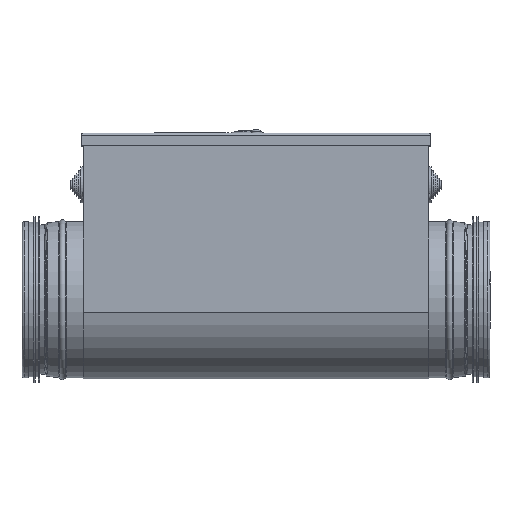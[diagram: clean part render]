
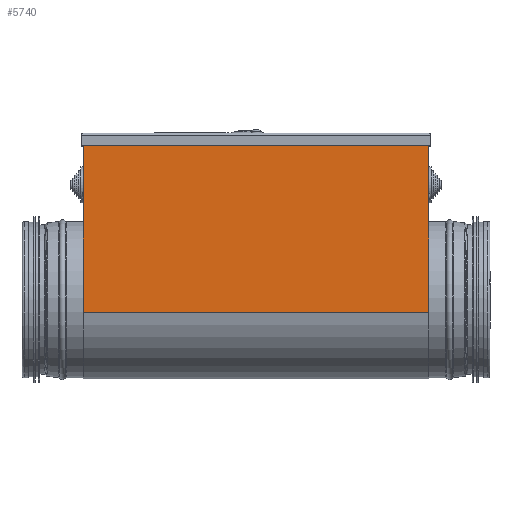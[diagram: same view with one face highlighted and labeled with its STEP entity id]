
A CAD part, top view. The second image highlights one B-rep face of the part: STEP entity #5740.
In plain terms, the highlighted planar face has unit normal (0, 0, 1).
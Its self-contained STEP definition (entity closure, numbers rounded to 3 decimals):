
#310=LINE('',#8311,#636);
#317=LINE('',#8357,#643);
#322=LINE('',#8389,#648);
#323=LINE('',#8390,#649);
#636=VECTOR('',#6743,1000.);
#643=VECTOR('',#6788,1000.);
#648=VECTOR('',#6819,10.);
#649=VECTOR('',#6820,1000.);
#968=PLANE('',#6144);
#1273=FACE_OUTER_BOUND('',#1638,.T.);
#1638=EDGE_LOOP('',(#3811,#3812,#3813,#3814));
#2407=VERTEX_POINT('',#8309);
#2408=VERTEX_POINT('',#8310);
#2427=VERTEX_POINT('',#8355);
#2428=VERTEX_POINT('',#8356);
#2974=EDGE_CURVE('',#2407,#2408,#310,.T.);
#2996=EDGE_CURVE('',#2427,#2428,#317,.T.);
#3012=EDGE_CURVE('',#2427,#2408,#322,.T.);
#3013=EDGE_CURVE('',#2428,#2407,#323,.T.);
#3811=ORIENTED_EDGE('',*,*,#2974,.T.);
#3812=ORIENTED_EDGE('',*,*,#3012,.F.);
#3813=ORIENTED_EDGE('',*,*,#2996,.T.);
#3814=ORIENTED_EDGE('',*,*,#3013,.T.);
#5740=ADVANCED_FACE('',(#1273),#968,.F.);
#6144=AXIS2_PLACEMENT_3D('',#8388,#6817,#6818);
#6743=DIRECTION('',(0.,1.,0.));
#6788=DIRECTION('',(0.,-1.,0.));
#6817=DIRECTION('center_axis',(0.,0.,-1.));
#6818=DIRECTION('ref_axis',(-1.,0.,0.));
#6819=DIRECTION('',(1.,0.,0.));
#6820=DIRECTION('',(1.,0.,0.));
#8309=CARTESIAN_POINT('',(136.5,-10.,62.9));
#8310=CARTESIAN_POINT('',(136.5,121.5,62.9));
#8311=CARTESIAN_POINT('',(136.5,-10.,62.9));
#8355=CARTESIAN_POINT('',(-136.5,121.5,62.9));
#8356=CARTESIAN_POINT('',(-136.5,-10.,62.9));
#8357=CARTESIAN_POINT('',(-136.5,-10.,62.9));
#8388=CARTESIAN_POINT('Origin',(-136.5,130.1,62.9));
#8389=CARTESIAN_POINT('',(137.25,121.5,62.9));
#8390=CARTESIAN_POINT('',(-136.5,-10.,62.9));
